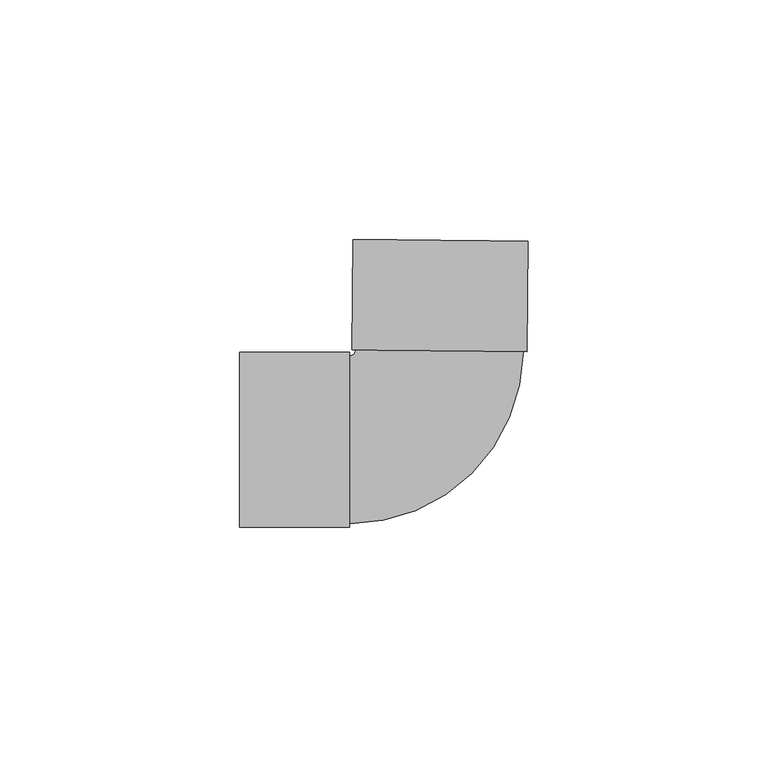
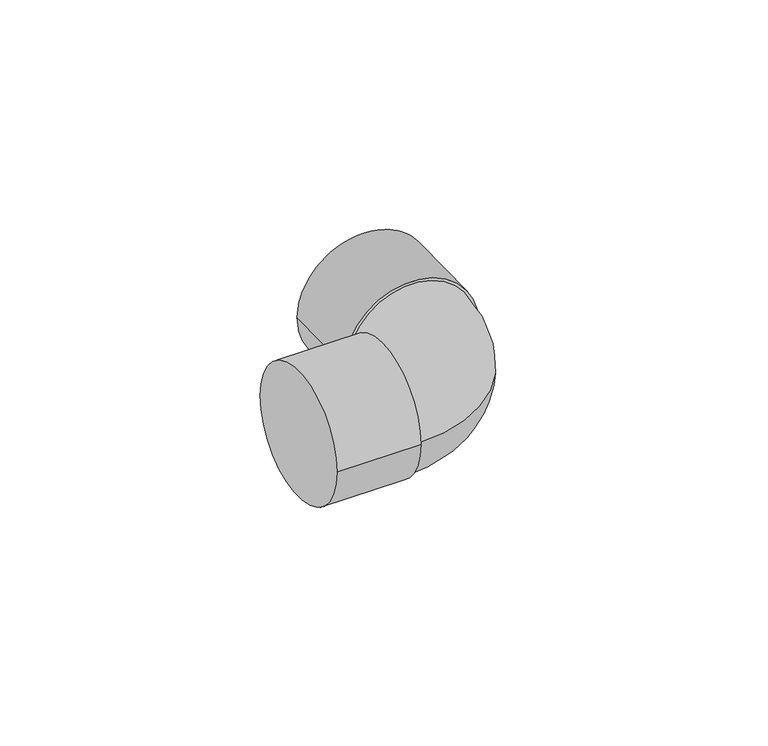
"""IFC4 building model written with IfcOpenShell, lengths in millimetres: pipe fitting geometry, Cotovelo - Soldado - CU : Padrão."""

from ifc_helpers import new_model, si_unit, point, frame, origin, place, context, project, spatial, circle_curve, ellipse_curve, trimmed, source, transform, mapped, element, save
from ifc_brep_helpers import plane_surface, cylinder_surface, revolved_surface, advanced_brep


def pipe_fitting_2c1a2fab(model_context):
    return source(origin(), model_context, "Body", "AdvancedBrep", [
        advanced_brep(
        [(-17.3131344, 18.7740613, 0.0), (-18.6, 17.5, 0.0), (-18.6, -17.5, 0.0), (17.6851158, 18.4240788, 0.0), (-41.6, -18.28, 0.0), (-41.6, 18.28, 0.0), (-18.6, -18.28, 0.0), (-18.6, 18.28, 0.0), (-17.8631069, 41.780711, 0.0), (18.6950653, 41.4151293, 0.0), (-18.0930954, 18.7818609, 0.0), (18.4650768, 18.4162792, 0.0)],
        [
            (0, 1, circle_curve(frame((-18.6, 18.78693, 0.0), z_axis=(0.0, 0.0, -1.0), x_axis=(0.0, -1.0, 0.0)), 1.28693)),
            (1, 2, circle_curve(frame((-18.6, 0.0, 0.0), z_axis=(1.0, 0.0, 0.0), x_axis=(0.0, 1.0, 0.0)), 17.5)),
            (2, 3, circle_curve(frame((-18.6, 18.78693, 0.0), z_axis=(0.0, 0.0, 1.0), x_axis=(0.0, -1.0, 0.0)), 36.28693)),
            (3, 0, circle_curve(frame((0.1859907, 18.5990701, 0.0), z_axis=(-0.009999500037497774, -0.9999500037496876, 0.0), x_axis=(-0.9999500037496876, 0.009999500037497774, 0.0)), 17.5)),
            (0, 3, circle_curve(frame((0.1859907, 18.5990701, 0.0), z_axis=(-0.009999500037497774, -0.9999500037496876, 0.0), x_axis=(-0.9999500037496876, 0.009999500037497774, 0.0)), 17.5)),
            (2, 1, circle_curve(frame((-18.6, 0.0, 0.0), z_axis=(1.0, 0.0, 0.0), x_axis=(0.0, 1.0, 0.0)), 17.5)),
            (4, 5, circle_curve(frame((-41.6, 0.0, 0.0), z_axis=(-1.0, 0.0, 0.0), x_axis=(0.0, 1.0, 0.0)), 18.28)),
            (5, 4, circle_curve(frame((-41.6, 0.0, 0.0), z_axis=(-1.0, 0.0, 0.0), x_axis=(0.0, 1.0, 0.0)), 18.28)),
            (6, 7, circle_curve(frame((-18.6, 0.0, 0.0), z_axis=(1.0, 0.0, 0.0), x_axis=(0.0, 1.0, 0.0)), 18.28)),
            (7, 6, circle_curve(frame((-18.6, 0.0, 0.0), z_axis=(1.0, 0.0, 0.0), x_axis=(0.0, 1.0, 0.0)), 18.28)),
            (4, 6),
            (7, 5),
            (8, 9, circle_curve(frame((0.4159792, 41.5979202, 0.0), z_axis=(0.009999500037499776, 0.9999500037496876, 0.0), x_axis=(0.9999500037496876, -0.009999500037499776, 0.0)), 18.28)),
            (9, 8, circle_curve(frame((0.4159792, 41.5979202, 0.0), z_axis=(0.009999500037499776, 0.9999500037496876, 0.0), x_axis=(0.9999500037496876, -0.009999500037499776, 0.0)), 18.28)),
            (10, 11, circle_curve(frame((0.1859907, 18.5990701, 0.0), z_axis=(-0.009999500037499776, -0.9999500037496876, 0.0), x_axis=(0.9999500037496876, -0.009999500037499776, 0.0)), 18.28)),
            (11, 10, circle_curve(frame((0.1859907, 18.5990701, 0.0), z_axis=(-0.009999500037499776, -0.9999500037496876, 0.0), x_axis=(0.9999500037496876, -0.009999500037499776, 0.0)), 18.28)),
            (8, 10),
            (11, 9),
        ],
        [
            revolved_surface(trimmed(ellipse_curve(frame((-18.6, 0.0, 0.0), z_axis=(-1.0, 0.0, 0.0), x_axis=(0.0, 1.0, 0.0)), 17.5, 17.5), [point((-18.6, -17.5, 0.0))], [point((-18.6, 17.5, 0.0))], True, "CARTESIAN"), (-18.6, 18.78693, 0.0), (0.0, 0.0, 1.0)),
            revolved_surface(trimmed(ellipse_curve(frame((-18.6, 0.0, 0.0), z_axis=(-1.0, 0.0, 0.0), x_axis=(0.0, 1.0, 0.0)), 17.5, 17.5), [point((-18.6, 17.5, 0.0))], [point((-18.6, -17.5, 0.0))], True, "CARTESIAN"), (-18.6, 18.78693, 0.0), (0.0, 0.0, 1.0)),
            plane_surface(frame((-41.6, 0.0, 0.0), z_axis=(-1.0, 0.0, 0.0), x_axis=(0.0, 0.0, 1.0))),
            plane_surface(frame((-18.6, 0.0, 0.0), z_axis=(1.0, 0.0, 0.0), x_axis=(0.0, 0.0, 1.0))),
            cylinder_surface(frame((-41.6, 0.0, 0.0), z_axis=(-1.0, 0.0, 0.0), x_axis=(0.0, 1.0, 0.0)), 18.28),
            plane_surface(frame((0.4159792, 41.5979202, 0.0), z_axis=(0.009999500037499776, 0.9999500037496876, 0.0), x_axis=(0.0, 0.0, 1.0))),
            plane_surface(frame((0.1859907, 18.5990701, 0.0), z_axis=(-0.009999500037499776, -0.9999500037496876, 0.0), x_axis=(0.0, 0.0, 1.0))),
            cylinder_surface(frame((0.4159792, 41.5979202, 0.0), z_axis=(0.009999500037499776, 0.9999500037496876, 0.0), x_axis=(0.9999500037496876, -0.009999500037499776, 0.0)), 18.28),
        ],
        [
            (0, [[1, 2, 3, 4]]),
            (1, [[-1, 5, -3, 6]]),
            (2, [[7, 8]]),
            (3, [[9, 10], [-2, -6]]),
            (4, [[-7, 11, -10, 12]]),
            (4, [[-8, -12, -9, -11]]),
            (5, [[13, 14]]),
            (6, [[15, 16], [-4, -5]]),
            (7, [[-13, 17, -16, 18]]),
            (7, [[-14, -18, -15, -17]]),
        ],
    ),
    ])


if __name__ == "__main__":
    model = new_model("IFC4")
    model_context = context("Model", 3, world=origin())
    ifc_project = project(units=[si_unit("LENGTHUNIT", "METRE", prefix="MILLI")], contexts=[model_context])
    site = spatial("IfcSite", under=ifc_project)
    building = spatial("IfcBuilding", under=site)
    placement = place(None, origin())
    pipe_fitting_shape = pipe_fitting_2c1a2fab(model_context)
    element("IfcPipeFitting", 1, ObjectType="Cotovelo - Soldado - CU : Padrão", at=placement, inside=building, context=model_context, shape_type="MappedRepresentation", body=[
        mapped(pipe_fitting_shape, transform((0.0, 0.0, 0.0), x_axis=(1.0, 0.0, 0.0), y_axis=(0.0, 1.0, 0.0), z_axis=(0.0, 0.0, 1.0))),
    ])
    save(model, "model.ifc")
